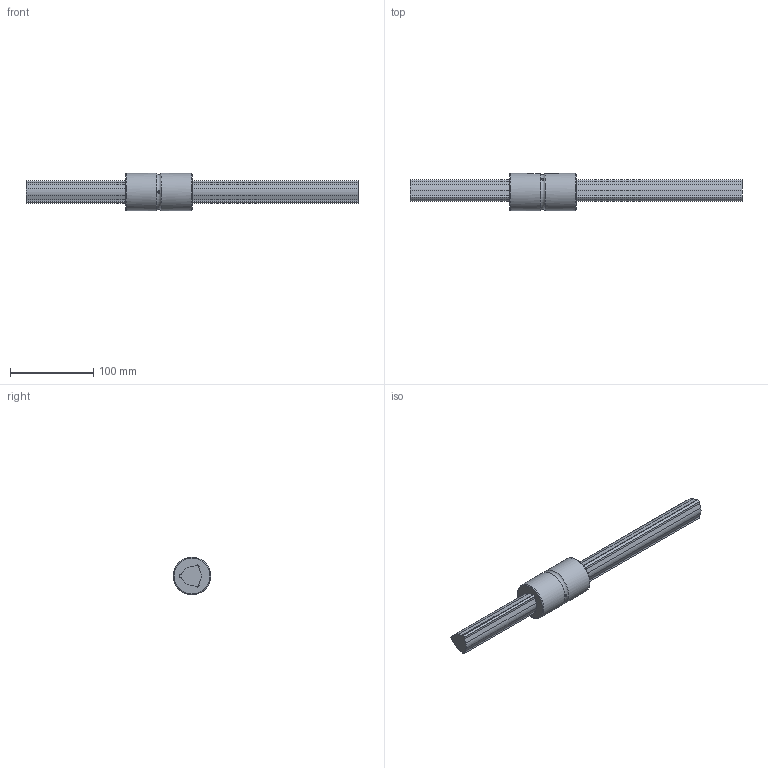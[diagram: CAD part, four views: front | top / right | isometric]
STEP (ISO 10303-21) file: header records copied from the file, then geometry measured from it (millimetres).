
FILE_DESCRIPTION(/* description */ ('STEP AP214'),/* implementation_level */ '2;1');
FILE_NAME(/* name */ 'LBST30+400L(801200)',/* time_stamp */ '2024-09-04T12:54:41+02:00',/* author */ ('License CC BY-ND 4.0'),/* organization */ ('CADENAS'),/* preprocessor_version */ 'ST-DEVELOPER v19.3',/* originating_system */ 'PARTsolutions',/* authorisation */ ' ');
FILE_SCHEMA (('AUTOMOTIVE_DESIGN {1 0 10303 214 3 1 1}'));
Length unit declared in the file: millimetre
Products named in the file (3): LBST30+400L(801200); LBST301400 Spline Shaft; LBST30 Nut
Assembly tree (2 placements, depth 2):
  LBST30+400L(801200)
    LBST301400 Spline Shaft
    LBST30 Nut
Bounding box: 400 x 45 x 45 mm (x, y, z)
Volume: 271733.4 mm3; surface area: 55565.9 mm2
Topology: 2 solids, 2 shells, 56 faces, 148 edges, 99 vertices
Faces by surface type: cylinder 31, plane 22, torus 3
Full cylindrical faces by diameter (mm): 3 x3, 45 x2
Entity records: 1797 total; most frequent: CARTESIAN_POINT 342, DIRECTION 306, ORIENTED_EDGE 272, EDGE_CURVE 136, AXIS2_PLACEMENT_3D 118, VERTEX_POINT 94, LINE 70, VECTOR 70
